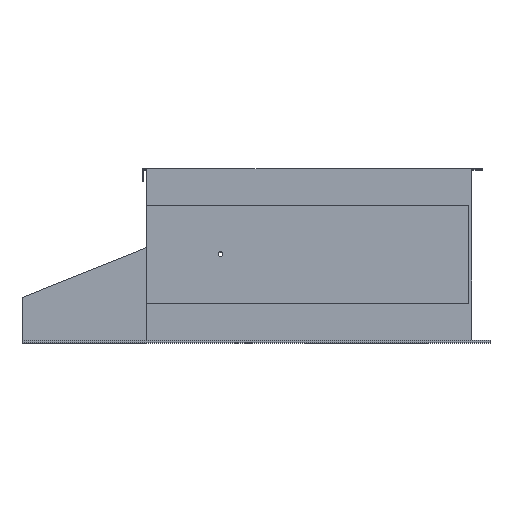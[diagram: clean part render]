
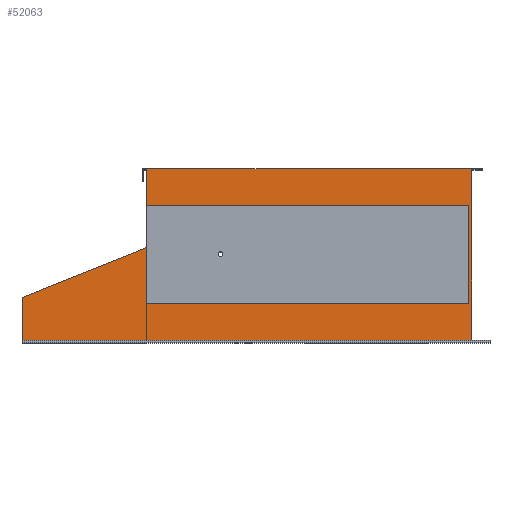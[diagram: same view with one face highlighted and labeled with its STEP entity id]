
A CAD part, top view. The second image highlights one B-rep face of the part: STEP entity #52063.
In plain terms, the highlighted planar face has unit normal (0, 0, 1).
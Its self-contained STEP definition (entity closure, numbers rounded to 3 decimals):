
#230 = CARTESIAN_POINT ( 'NONE',  ( 913., 0., 343. ) ) ;
#966 = ORIENTED_EDGE ( 'NONE', *, *, #7952, .F. ) ;
#1926 = ORIENTED_EDGE ( 'NONE', *, *, #30469, .F. ) ;
#2106 = EDGE_CURVE ( 'NONE', #37831, #6624, #42455, .T. ) ;
#2525 = VERTEX_POINT ( 'NONE', #57201 ) ;
#2575 = LINE ( 'NONE', #52962, #38572 ) ;
#4483 = LINE ( 'NONE', #230, #52016 ) ;
#6031 = LINE ( 'NONE', #26164, #40497 ) ;
#6099 = CARTESIAN_POINT ( 'NONE',  ( 245., 353.5, 343. ) ) ;
#6492 = ORIENTED_EDGE ( 'NONE', *, *, #2106, .T. ) ;
#6624 = VERTEX_POINT ( 'NONE', #28686 ) ;
#7355 = DIRECTION ( 'NONE',  ( 1., 0., 0. ) ) ;
#7668 = CARTESIAN_POINT ( 'NONE',  ( 0., 351.791, 343. ) ) ;
#7774 = DIRECTION ( 'NONE',  ( 1., 0., 0. ) ) ;
#7952 = EDGE_CURVE ( 'NONE', #7964, #6624, #16348, .T. ) ;
#7964 = VERTEX_POINT ( 'NONE', #18690 ) ;
#8163 = DIRECTION ( 'NONE',  ( 0., -1., 0. ) ) ;
#8228 = LINE ( 'NONE', #26239, #41204 ) ;
#8756 = EDGE_CURVE ( 'NONE', #53638, #54307, #24075, .T. ) ;
#9720 = ORIENTED_EDGE ( 'NONE', *, *, #52760, .F. ) ;
#9819 = CARTESIAN_POINT ( 'NONE',  ( 913., 351.791, 343. ) ) ;
#11334 = LINE ( 'NONE', #7668, #35216 ) ;
#11831 = CARTESIAN_POINT ( 'NONE',  ( 907., 79., 343. ) ) ;
#11966 = CARTESIAN_POINT ( 'NONE',  ( 907., 79., 343. ) ) ;
#12026 = CARTESIAN_POINT ( 'NONE',  ( -31.724, 79.31, 343. ) ) ;
#12193 = EDGE_CURVE ( 'NONE', #53952, #21347, #36261, .T. ) ;
#12261 = EDGE_CURVE ( 'NONE', #15255, #18836, #33502, .T. ) ;
#13423 = ORIENTED_EDGE ( 'NONE', *, *, #49829, .F. ) ;
#13498 = EDGE_CURVE ( 'NONE', #43427, #53952, #49177, .T. ) ;
#13621 = LINE ( 'NONE', #15335, #25658 ) ;
#13872 = VERTEX_POINT ( 'NONE', #6099 ) ;
#15154 = VECTOR ( 'NONE', #32456, 1000. ) ;
#15240 = CARTESIAN_POINT ( 'NONE',  ( 907., 279., 343. ) ) ;
#15255 = VERTEX_POINT ( 'NONE', #19010 ) ;
#15335 = CARTESIAN_POINT ( 'NONE',  ( 245., 0., 343. ) ) ;
#15597 = CARTESIAN_POINT ( 'NONE',  ( 0., 0., 343. ) ) ;
#16115 = VERTEX_POINT ( 'NONE', #42625 ) ;
#16348 = LINE ( 'NONE', #53307, #38683 ) ;
#17235 = CARTESIAN_POINT ( 'NONE',  ( 0., 328.5, 343. ) ) ;
#17376 = VECTOR ( 'NONE', #18827, 1000. ) ;
#17899 = ORIENTED_EDGE ( 'NONE', *, *, #25732, .T. ) ;
#18690 = CARTESIAN_POINT ( 'NONE',  ( 935., 353.5, 343. ) ) ;
#18827 = DIRECTION ( 'NONE',  ( 1., 0., 0. ) ) ;
#18836 = VERTEX_POINT ( 'NONE', #22791 ) ;
#19010 = CARTESIAN_POINT ( 'NONE',  ( 253., 193.2, 343. ) ) ;
#19065 = LINE ( 'NONE', #34389, #20521 ) ;
#20164 = ORIENTED_EDGE ( 'NONE', *, *, #8756, .T. ) ;
#20521 = VECTOR ( 'NONE', #7355, 1000. ) ;
#20549 = CARTESIAN_POINT ( 'NONE',  ( 246.5, 0., 343. ) ) ;
#20792 = CARTESIAN_POINT ( 'NONE',  ( 913., 5., 343. ) ) ;
#21347 = VERTEX_POINT ( 'NONE', #15240 ) ;
#21658 = VECTOR ( 'NONE', #56402, 1000. ) ;
#22130 = DIRECTION ( 'NONE',  ( 1., 0., 0. ) ) ;
#22629 = DIRECTION ( 'NONE',  ( 0., -1., 0. ) ) ;
#22791 = CARTESIAN_POINT ( 'NONE',  ( 0., 92., 343. ) ) ;
#23845 = CARTESIAN_POINT ( 'NONE',  ( 0., 351.791, 343. ) ) ;
#24075 = LINE ( 'NONE', #20549, #35874 ) ;
#24367 = DIRECTION ( 'NONE',  ( 0., -1., 0. ) ) ;
#24479 = VECTOR ( 'NONE', #47485, 1000. ) ;
#25658 = VECTOR ( 'NONE', #37626, 1000. ) ;
#25732 = EDGE_CURVE ( 'NONE', #54307, #38984, #11334, .T. ) ;
#26164 = CARTESIAN_POINT ( 'NONE',  ( 907., 279., 343. ) ) ;
#26239 = CARTESIAN_POINT ( 'NONE',  ( 0., 0., 343. ) ) ;
#28087 = VERTEX_POINT ( 'NONE', #20792 ) ;
#28686 = CARTESIAN_POINT ( 'NONE',  ( 935., 351.791, 343. ) ) ;
#28824 = CARTESIAN_POINT ( 'NONE',  ( 253., 79., 343. ) ) ;
#30068 = VECTOR ( 'NONE', #24367, 1000. ) ;
#30125 = EDGE_LOOP ( 'NONE', ( #45240, #40487, #39285, #6492, #966, #13423, #1926, #50839, #20164, #17899, #44635, #9720, #33000, #42414, #43123, #43829 ) ) ;
#30469 = EDGE_CURVE ( 'NONE', #2525, #13872, #13621, .T. ) ;
#31469 = CARTESIAN_POINT ( 'NONE',  ( 246.5, 328.5, 343. ) ) ;
#31547 = CARTESIAN_POINT ( 'NONE',  ( 246.5, 351.791, 343. ) ) ;
#32456 = DIRECTION ( 'NONE',  ( 1., 0., 0. ) ) ;
#32936 = EDGE_CURVE ( 'NONE', #53638, #2525, #51791, .T. ) ;
#33000 = ORIENTED_EDGE ( 'NONE', *, *, #12193, .F. ) ;
#33502 = LINE ( 'NONE', #12026, #21658 ) ;
#34389 = CARTESIAN_POINT ( 'NONE',  ( 0., 353.5, 343. ) ) ;
#34780 = DIRECTION ( 'NONE',  ( 0., 0., 1. ) ) ;
#35216 = VECTOR ( 'NONE', #39085, 1000. ) ;
#35874 = VECTOR ( 'NONE', #56530, 1000. ) ;
#36261 = LINE ( 'NONE', #11831, #24479 ) ;
#37626 = DIRECTION ( 'NONE',  ( 0., 1., 0. ) ) ;
#37831 = VERTEX_POINT ( 'NONE', #9819 ) ;
#38250 = PLANE ( 'NONE',  #54603 ) ;
#38572 = VECTOR ( 'NONE', #22130, 1000. ) ;
#38683 = VECTOR ( 'NONE', #40880, 1000. ) ;
#38984 = VERTEX_POINT ( 'NONE', #40835 ) ;
#39085 = DIRECTION ( 'NONE',  ( 1., 0., 0. ) ) ;
#39285 = ORIENTED_EDGE ( 'NONE', *, *, #56489, .F. ) ;
#40170 = VECTOR ( 'NONE', #43864, 1000. ) ;
#40487 = ORIENTED_EDGE ( 'NONE', *, *, #49994, .T. ) ;
#40497 = VECTOR ( 'NONE', #52522, 1000. ) ;
#40835 = CARTESIAN_POINT ( 'NONE',  ( 253., 351.791, 343. ) ) ;
#40880 = DIRECTION ( 'NONE',  ( 0., -1., 0. ) ) ;
#41204 = VECTOR ( 'NONE', #8163, 1000. ) ;
#41208 = EDGE_CURVE ( 'NONE', #15255, #43427, #53443, .T. ) ;
#41489 = VECTOR ( 'NONE', #54308, 1000. ) ;
#41882 = CARTESIAN_POINT ( 'NONE',  ( 907., 79., 343. ) ) ;
#42265 = CARTESIAN_POINT ( 'NONE',  ( 0., 5., 343. ) ) ;
#42414 = ORIENTED_EDGE ( 'NONE', *, *, #13498, .F. ) ;
#42455 = LINE ( 'NONE', #23845, #17376 ) ;
#42586 = FACE_OUTER_BOUND ( 'NONE', #30125, .T. ) ;
#42625 = CARTESIAN_POINT ( 'NONE',  ( 253., 279., 343. ) ) ;
#42864 = LINE ( 'NONE', #49908, #41489 ) ;
#43123 = ORIENTED_EDGE ( 'NONE', *, *, #41208, .F. ) ;
#43427 = VERTEX_POINT ( 'NONE', #57500 ) ;
#43829 = ORIENTED_EDGE ( 'NONE', *, *, #12261, .T. ) ;
#43864 = DIRECTION ( 'NONE',  ( -1., 0., 0. ) ) ;
#44635 = ORIENTED_EDGE ( 'NONE', *, *, #46473, .T. ) ;
#45240 = ORIENTED_EDGE ( 'NONE', *, *, #52161, .T. ) ;
#46473 = EDGE_CURVE ( 'NONE', #38984, #16115, #42864, .T. ) ;
#47485 = DIRECTION ( 'NONE',  ( 0., 1., 0. ) ) ;
#49177 = LINE ( 'NONE', #41882, #15154 ) ;
#49829 = EDGE_CURVE ( 'NONE', #13872, #7964, #19065, .T. ) ;
#49908 = CARTESIAN_POINT ( 'NONE',  ( 253., 0., 343. ) ) ;
#49994 = EDGE_CURVE ( 'NONE', #54911, #28087, #2575, .T. ) ;
#50839 = ORIENTED_EDGE ( 'NONE', *, *, #32936, .F. ) ;
#51791 = LINE ( 'NONE', #17235, #40170 ) ;
#52016 = VECTOR ( 'NONE', #22629, 1000. ) ;
#52063 = ADVANCED_FACE ( 'NONE', ( #42586 ), #38250, .T. ) ;
#52161 = EDGE_CURVE ( 'NONE', #18836, #54911, #8228, .T. ) ;
#52522 = DIRECTION ( 'NONE',  ( -1., 0., 0. ) ) ;
#52760 = EDGE_CURVE ( 'NONE', #21347, #16115, #6031, .T. ) ;
#52962 = CARTESIAN_POINT ( 'NONE',  ( 0., 5., 343. ) ) ;
#53307 = CARTESIAN_POINT ( 'NONE',  ( 935., 0., 343. ) ) ;
#53443 = LINE ( 'NONE', #28824, #30068 ) ;
#53638 = VERTEX_POINT ( 'NONE', #31469 ) ;
#53952 = VERTEX_POINT ( 'NONE', #11966 ) ;
#54307 = VERTEX_POINT ( 'NONE', #31547 ) ;
#54308 = DIRECTION ( 'NONE',  ( 0., -1., 0. ) ) ;
#54603 = AXIS2_PLACEMENT_3D ( 'NONE', #15597, #34780, #7774 ) ;
#54911 = VERTEX_POINT ( 'NONE', #42265 ) ;
#56402 = DIRECTION ( 'NONE',  ( -0.928, -0.371, 0. ) ) ;
#56489 = EDGE_CURVE ( 'NONE', #37831, #28087, #4483, .T. ) ;
#56530 = DIRECTION ( 'NONE',  ( 0., 1., 0. ) ) ;
#57201 = CARTESIAN_POINT ( 'NONE',  ( 245., 328.5, 343. ) ) ;
#57500 = CARTESIAN_POINT ( 'NONE',  ( 253., 79., 343. ) ) ;
